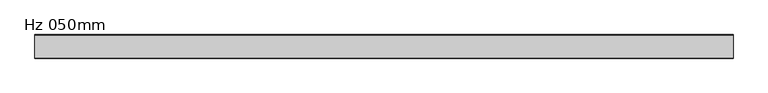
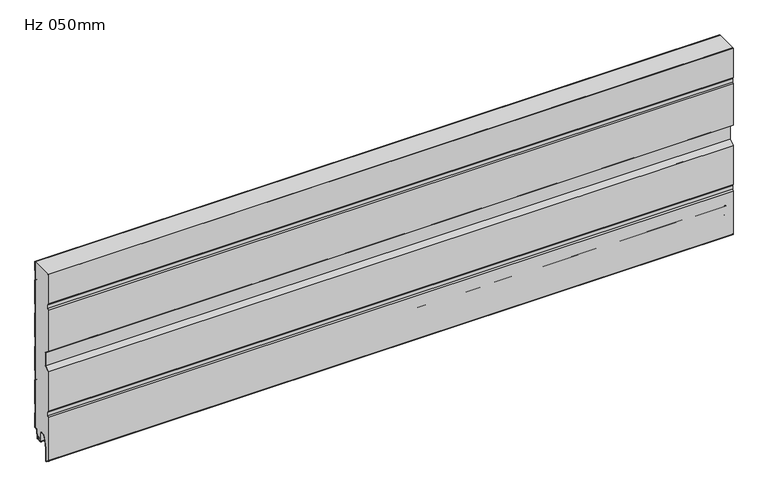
"""IFC4 building model written with IfcOpenShell, lengths in millimetres: plate geometry, KIP-MEX-KW-R19-CP-Hz-KW7_SL : Hz 050mm."""

from ifc_helpers import new_model, si_unit, point, frame, frame_2d, origin, place, context, project, spatial, polyline, circle_curve, trimmed, segment, composite_curve, outline, extrude, source, transform, mapped, element, save


def hz_050mm_75f4050c(model_context):
    return source(origin(), model_context, "Body", "SweptSolid", [
        extrude(outline(composite_curve([segment(polyline([(-1.1923863, 378.0794496), (-1.1923863, 359.0343601), (0.0055391, 357.9478358), (0.0055391, 303.0116636), (-1.1923863, 301.9265649), (-1.1923863, 282.8814753), (0.0055391, 281.794951), (0.0055391, 226.8587788), (-1.1923863, 225.7736801), (-1.1923863, 206.7285905), (0.0055391, 205.6420663), (0.0055391, 150.7058941), (-1.1923863, 149.6207954), (-1.1923863, 130.5757058), (0.0071129, 129.4891815), (0.0071129, 74.5544349), (-1.1923863, 73.4679106), (-1.1923863, 54.422821), (0.0, 53.3377223), (0.0, 21.7710722)]), True, "CONTINUOUS"), segment(trimmed(circle_curve(frame_2d((-1.4908763, 21.7710722)), 1.4908762), [point((0.0, 21.7710722))], [point((-1.4908763, 20.280196))], False, "CARTESIAN"), True, "CONTINUOUS"), segment(polyline([(-1.4908763, 20.280196), (-4.495104, 20.280196)]), True, "CONTINUOUS"), segment(trimmed(circle_curve(frame_2d((-4.495104, 18.2846098)), 1.9955862), [point((-4.495104, 20.280196))], [point((-6.4831424, 18.4580093))], True, "CARTESIAN"), True, "CONTINUOUS"), segment(polyline([(-6.4831424, 18.4580093), (-7.9041448, 2.1661016)]), True, "CONTINUOUS"), segment(trimmed(circle_curve(frame_2d((-10.3946892, 2.3833303)), 2.4999999), [point((-7.9041448, 2.1661016))], [point((-9.647721, -0.002469))], False, "CARTESIAN"), True, "CONTINUOUS"), segment(polyline([(-9.647721, -0.002469), (-11.9170147, -0.002469)]), True, "CONTINUOUS"), segment(trimmed(circle_curve(frame_2d((-11.1700464, 2.3833303)), 2.5), [point((-11.9170147, -0.002469))], [point((-13.6605331, 2.1654409))], False, "CARTESIAN"), True, "CONTINUOUS"), segment(polyline([(-13.6605331, 2.1654409), (-14.1669652, 7.9539868), (-13.1707705, 8.0411425), (-12.6643384, 2.2525966)]), True, "CONTINUOUS"), segment(trimmed(circle_curve(frame_2d((-11.1700464, 2.3833303)), 1.5), [point((-12.6643384, 2.2525966))], [point((-11.7441198, 0.997531))], True, "CARTESIAN"), True, "CONTINUOUS"), segment(polyline([(-11.7441198, 0.997531), (-9.8206159, 0.997531)]), True, "CONTINUOUS"), segment(trimmed(circle_curve(frame_2d((-10.3946892, 2.3833303)), 1.4999999), [point((-9.8206159, 0.997531))], [point((-8.9003365, 2.2532919))], True, "CARTESIAN"), True, "CONTINUOUS"), segment(polyline([(-8.9003365, 2.2532919), (-7.4823437, 18.5483373)]), True, "CONTINUOUS"), segment(trimmed(circle_curve(frame_2d((-4.4936383, 18.2882606)), 3.0), [point((-7.4823437, 18.5483373))], [point((-4.4936383, 21.2882606))], False, "CARTESIAN"), True, "CONTINUOUS"), segment(polyline([(-4.4936383, 21.2882606), (-0.9936383, 21.2882606), (-0.9936383, 52.8942781), (-2.1923863, 53.9793766), (-2.1923863, 73.911355), (-0.9928871, 74.9978793), (-0.9928871, 129.0457371), (-2.1923863, 130.1322614), (-2.1923863, 150.0642397), (-0.9928871, 151.150764), (-0.9928871, 205.1986219), (-2.1923863, 206.2851462), (-2.1923863, 226.2171245), (-0.9928871, 227.3036488), (-0.9928871, 281.3515066), (-2.1923863, 282.4380309), (-2.1923863, 302.3700093), (-0.9928871, 303.4565335), (-0.9928871, 357.5043914), (-2.1923863, 358.5909157), (-2.1923863, 378.522894), (-0.9928871, 379.6094183), (-0.9928871, 400.0520896), (0.0055391, 400.0520896), (0.0055391, 379.1645483), (-1.1923863, 378.0794496)]), True, "CONTINUOUS")], self_intersect=False)), frame((-740.0, 0.0, 0.0), z_axis=(1.0, 0.0, 0.0), x_axis=(0.0, 1.0, 0.0)), (0.0, 0.0, 1.0), 1480.0),
        extrude(outline(composite_curve([segment(polyline([(-14.168539, 7.9539868), (-13.6621069, 2.1654409)]), True, "CONTINUOUS"), segment(trimmed(circle_curve(frame_2d((-11.1716202, 2.3833303)), 2.5), [point((-13.6621069, 2.1654409))], [point((-11.9264293, 0.0))], True, "CARTESIAN"), True, "CONTINUOUS"), segment(polyline([(-11.9264293, 0.0), (-18.737817, 0.0)]), True, "CONTINUOUS"), segment(trimmed(circle_curve(frame_2d((-18.737817, 2.4986532)), 2.4986532), [point((-18.737817, 0.0))], [point((-16.2391638, 2.4986532))], True, "CARTESIAN"), True, "CONTINUOUS"), segment(polyline([(-16.2391638, 2.4986532), (-16.2391638, 6.9975309), (-17.2393619, 6.9975309), (-17.2393619, 2.4989009)]), True, "CONTINUOUS"), segment(trimmed(circle_curve(frame_2d((-18.737718, 2.4989009)), 1.4983561), [point((-17.2393619, 2.4989009))], [point((-18.737718, 1.0005448))], False, "CARTESIAN"), True, "CONTINUOUS"), segment(polyline([(-18.737718, 1.0005448), (-20.2871287, 1.0005448)]), True, "CONTINUOUS"), segment(trimmed(circle_curve(frame_2d((-20.2871287, 2.4946541)), 1.4941093), [point((-20.2871287, 1.0005448))], [point((-21.781238, 2.4946541))], False, "CARTESIAN"), True, "CONTINUOUS"), segment(polyline([(-21.781238, 2.4946541), (-21.781238, 21.0181667)]), True, "CONTINUOUS"), segment(trimmed(circle_curve(frame_2d((-24.8021238, 21.0181667)), 3.0208858), [point((-21.781238, 21.0181667))], [point((-24.8021238, 24.0390526))], True, "CARTESIAN"), True, "CONTINUOUS"), segment(polyline([(-24.8021238, 24.0390526), (-32.2693804, 24.0390526)]), True, "CONTINUOUS"), segment(trimmed(circle_curve(frame_2d((-32.2693804, 21.0499553)), 2.9890972), [point((-32.2693804, 24.0390526))], [point((-35.1423641, 21.8749809))], True, "CARTESIAN"), True, "CONTINUOUS"), segment(polyline([(-35.1423641, 21.8749809), (-42.2405983, -2.8431766), (-42.2405983, -31.2013392), (-48.9952121, -25.9234803), (-48.9952121, 73.3517798), (-47.4952095, 76.3519667), (-47.4952095, 84.8240769), (-48.9952121, 87.8242639), (-48.9952121, 177.1076357), (-38.9952121, 185.1076357), (-38.9952121, 216.0688854), (-48.9952121, 224.0688854), (-48.9952121, 318.3520185), (-47.4952095, 321.3522055), (-47.4952095, 329.8243157), (-48.9952121, 332.8245026), (-48.9952121, 400.0520896), (-0.9944609, 400.0520896), (-0.9944609, 379.6094183), (-2.1939601, 378.522894), (-2.1939601, 358.5909157), (-0.9944609, 357.5058172), (-0.9944609, 303.4565335), (-2.1939601, 302.3700093), (-2.1939601, 282.4380309), (-0.9944609, 281.3529324), (-0.9944609, 227.3036488), (-2.1939601, 226.2171245), (-2.1939601, 206.2851462), (-0.9944609, 205.2000477), (-0.9944609, 151.150764), (-2.1939601, 150.0642397), (-2.1939601, 130.1322614), (-0.9944609, 129.0471629), (-0.9944609, 74.9978793), (-2.1939601, 73.911355), (-2.1939601, 53.9793766), (-0.9952121, 52.8942781), (-0.9952121, 21.2882606), (-4.4952121, 21.2882606)]), True, "CONTINUOUS"), segment(trimmed(circle_curve(frame_2d((-4.4952121, 18.2882606)), 3.0), [point((-4.4952121, 21.2882606))], [point((-7.4839175, 18.5483373))], True, "CARTESIAN"), True, "CONTINUOUS"), segment(polyline([(-7.4839175, 18.5483373), (-8.9019103, 2.2532919)]), True, "CONTINUOUS"), segment(trimmed(circle_curve(frame_2d((-10.396263, 2.3833303)), 1.4999999), [point((-8.9019103, 2.2532919))], [point((-9.8221897, 0.997531))], False, "CARTESIAN"), True, "CONTINUOUS"), segment(polyline([(-9.8221897, 0.997531), (-11.7456936, 0.997531)]), True, "CONTINUOUS"), segment(trimmed(circle_curve(frame_2d((-11.1716202, 2.3833303)), 1.5), [point((-11.7456936, 0.997531))], [point((-12.6659122, 2.2525966))], False, "CARTESIAN"), True, "CONTINUOUS"), segment(polyline([(-12.6659122, 2.2525966), (-13.1723443, 8.0411425), (-14.168539, 7.9539868)]), True, "CONTINUOUS")], self_intersect=False)), frame((-740.0, 0.0, 0.0), z_axis=(1.0, 0.0, 0.0), x_axis=(0.0, 1.0, 0.0)), (0.0, 0.0, 1.0), 1480.0),
        extrude(outline(composite_curve([segment(polyline([(-48.9944609, 318.3520185), (-48.9944609, 224.0688854), (-38.9944609, 216.0688854), (-38.9944609, 185.1076357), (-48.9944609, 177.1076357), (-48.9944609, 87.8242639), (-47.4944584, 84.8240769), (-47.4944584, 76.3519667), (-48.9944609, 73.3517798), (-48.9944609, -25.9234803), (-42.2398472, -31.2013392), (-42.2398472, -2.8431766), (-35.1489481, 21.8858639)]), True, "CONTINUOUS"), segment(trimmed(circle_curve(frame_2d((-32.2651224, 21.0589447)), 3.0000411), [point((-35.1489481, 21.8858639))], [point((-32.2651224, 24.0589858))], False, "CARTESIAN"), True, "CONTINUOUS"), segment(polyline([(-32.2651224, 24.0589858), (-24.7896834, 24.0589858)]), True, "CONTINUOUS"), segment(trimmed(circle_curve(frame_2d((-24.7896834, 21.0590057)), 2.9999801), [point((-24.7896834, 24.0589858))], [point((-21.7922097, 20.9364005))], False, "CARTESIAN"), True, "CONTINUOUS"), segment(polyline([(-21.7922097, 20.9364005), (-21.7922097, 2.4975334)]), True, "CONTINUOUS"), segment(trimmed(circle_curve(frame_2d((-20.2922047, 2.4975334)), 1.500005), [point((-21.7922097, 2.4975334))], [point((-20.2922047, 0.9975284))], True, "CARTESIAN"), True, "CONTINUOUS"), segment(polyline([(-20.2922047, 0.9975284), (-18.7375153, 0.9975284)]), True, "CONTINUOUS"), segment(trimmed(circle_curve(frame_2d((-18.7375153, 2.4975298)), 1.5000014), [point((-18.7375153, 0.9975284))], [point((-17.2375139, 2.4975298))], True, "CARTESIAN"), True, "CONTINUOUS"), segment(polyline([(-17.2375139, 2.4975298), (-17.2375139, 6.997531), (-16.2384126, 6.997531), (-16.2384126, 2.4986532)]), True, "CONTINUOUS"), segment(trimmed(circle_curve(frame_2d((-18.7370659, 2.4986532)), 2.4986533), [point((-16.2384126, 2.4986532))], [point((-18.7370659, 0.0))], False, "CARTESIAN"), True, "CONTINUOUS"), segment(polyline([(-18.7370659, 0.0), (-20.3087755, 0.0)]), True, "CONTINUOUS"), segment(trimmed(circle_curve(frame_2d((-20.2873377, 2.4950818)), 2.4951739), [point((-20.3087755, 0.0))], [point((-22.7825116, 2.4950818))], False, "CARTESIAN"), True, "CONTINUOUS"), segment(polyline([(-22.7825116, 2.4950818), (-22.7825116, 21.0262634)]), True, "CONTINUOUS"), segment(trimmed(circle_curve(frame_2d((-24.799282, 21.0262634)), 2.0167704), [point((-22.7825116, 21.0262634))], [point((-24.799282, 23.0430338))], True, "CARTESIAN"), True, "CONTINUOUS"), segment(polyline([(-24.799282, 23.0430338), (-32.2679288, 23.0430338)]), True, "CONTINUOUS"), segment(trimmed(circle_curve(frame_2d((-32.2679288, 21.0517509)), 1.9912829), [point((-32.2679288, 23.0430338))], [point((-34.1819009, 21.6012219))], True, "CARTESIAN"), True, "CONTINUOUS"), segment(polyline([(-34.1819009, 21.6012219), (-41.2398454, -2.9837112), (-41.2398454, -31.1745677)]), True, "CONTINUOUS"), segment(trimmed(circle_curve(frame_2d((-42.239487, -31.2013392)), 1.0), [point((-41.2398454, -31.1745677))], [point((-42.8551698, -31.9893333))], False, "CARTESIAN"), True, "CONTINUOUS"), segment(polyline([(-42.8551698, -31.9893333), (-49.033668, -27.1618917)]), True, "CONTINUOUS"), segment(trimmed(circle_curve(frame_2d((-47.4944609, -25.1919066)), 2.5), [point((-49.033668, -27.1618917))], [point((-49.9944609, -25.1919066))], False, "CARTESIAN"), True, "CONTINUOUS"), segment(polyline([(-49.9944609, -25.1919066), (-49.9944609, 73.587835), (-48.4944584, 76.5880219), (-48.4944584, 84.5880218), (-49.9943675, 87.5880218), (-49.9943675, 177.5882606), (-39.9944609, 185.5882606), (-39.9944609, 215.5882606), (-49.9944609, 223.5882606), (-49.9944609, 318.5880737), (-48.4944584, 321.5882607), (-48.4944584, 329.5882605), (-49.9943675, 332.5882605), (-49.9943675, 400.0520896), (-48.9944609, 400.0520896), (-48.9944609, 332.8245026), (-47.4944584, 329.8243157), (-47.4944584, 321.3522055), (-48.9944609, 318.3520185)]), True, "CONTINUOUS")], self_intersect=False)), frame((-740.0, 0.0, 0.0), z_axis=(1.0, 0.0, 0.0), x_axis=(0.0, 1.0, 0.0)), (0.0, 0.0, 1.0), 1480.0),
    ])


if __name__ == "__main__":
    model = new_model("IFC4")
    model_context = context("Model", 3, world=origin())
    ifc_project = project(units=[si_unit("LENGTHUNIT", "METRE", prefix="MILLI")], contexts=[model_context])
    site = spatial("IfcSite", under=ifc_project)
    building = spatial("IfcBuilding", under=site)
    placement = place(None, origin())
    hz_050mm_shape = hz_050mm_75f4050c(model_context)
    element("IfcPlate", 1, ObjectType="KIP-MEX-KW-R19-CP-Hz-KW7_SL : Hz 050mm", at=placement, inside=building, context=model_context, shape_type="MappedRepresentation", body=[
        mapped(hz_050mm_shape, transform((0.0, 0.0, 0.0), x_axis=(1.0, 0.0, 0.0), y_axis=(0.0, 1.0, 0.0), z_axis=(0.0, 0.0, 1.0))),
    ])
    save(model, "model.ifc")
